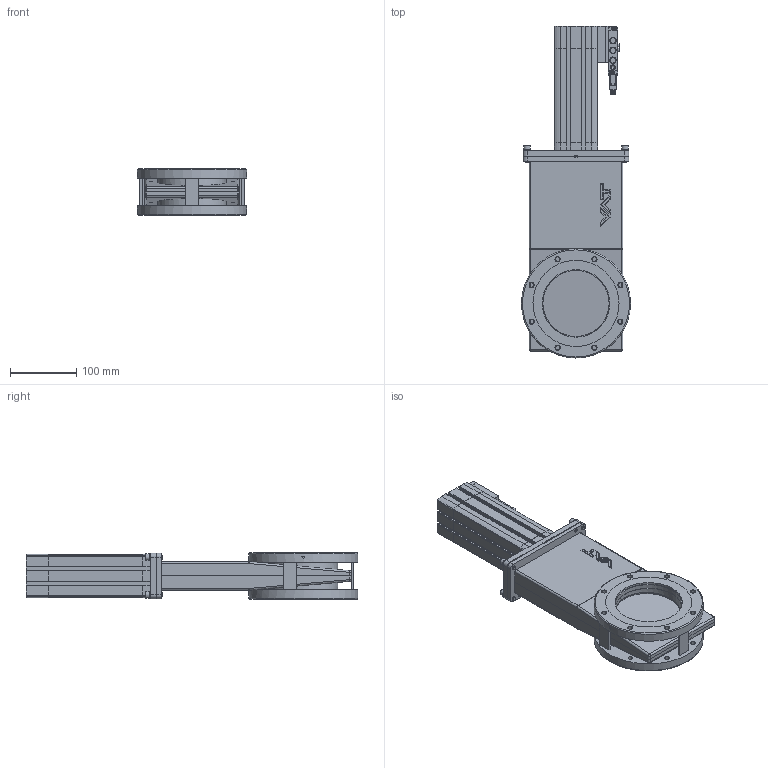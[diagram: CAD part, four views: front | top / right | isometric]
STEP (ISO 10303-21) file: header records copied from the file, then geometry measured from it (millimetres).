
FILE_DESCRIPTION(/* description */ (''),/* implementation_level */ '2;1');
FILE_NAME(/* name */ '1729971424_203.stp',/* time_stamp */ '2021-11-24T14:45:23+01:00',/* author */ (''),/* organization */ (''),/* preprocessor_version */ 'ST-DEVELOPER v16.7',/* originating_system */ 'SIEMENS PLM Software NX 1915',/* authorisation */ '');
FILE_SCHEMA (('AP203_CONFIGURATION_CONTROLLED_3D_DESIGN_OF_MECHANICAL_PARTS_AND_ASSEMBLIES_MIM_LF { 1 0 10303 403 2 1 2}'));
Length unit declared in the file: millimetre
Products named in the file (19): 251261.12_31505ID; 251260.4_31496ID; 251261.12_31472ID; 1134546; 343001.1; 1041281; 938048; 251257.9_31470ID; 251262.4; 251259.6_31493ID; 251259.6_31523ID; 251257.9_31477ID; 218189; n-6134-408; 250214.4; 1004825_NX-ARRAGMNTOpen; 251258.9; 251256.28; 1096124
Assembly tree (27 placements, depth 4):
  1096124
    251256.28
      251257.9_31477ID
      251259.6_31523ID
      251259.6_31493ID
      251262.4  x3
      251258.9
        251261.12_31472ID
        251260.4_31496ID
        251261.12_31505ID
      251257.9_31470ID
    250214.4
    n-6134-408  x4
    218189  x4
    1004825_NX-ARRAGMNTOpen
      938048
      1041281
      343001.1  x2
      1134546
Bounding box: 164.8 x 501.5 x 70 mm (x, y, z)
Volume: 1778122.6 mm3; surface area: 493301.3 mm2
Topology: 41 solids, 43 shells, 4514 faces, 11532 edges, 7109 vertices
Faces by surface type: plane 2028, cylinder 1454, bspline 426, cone 233, torus 193, sphere 127, extrusion 49, revolution 4
Full cylindrical faces by diameter (mm): 1.041 x3, 1.5 x1, 2 x2, 2.46 x2, 2.5 x3, 3 x6, 3.2 x4, 3.4 x2, 3.75 x1, 3.8 x1, 3.9 x1, 4.5 x4, 4.96 x4, 5 x8, 5.05 x1, 5.1 x2, 5.22 x4, 5.5 x4, 5.6 x1, 5.8 x1, 6 x8, 6.2 x3, 6.4 x5, 6.5 x4, 6.54 x1, 6.6 x4, 6.8 x16, 6.9 x1, 7.4 x2, 8 x2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
Entity records: 155272 total; most frequent: CARTESIAN_POINT 50611, ORIENTED_EDGE 21612, DIRECTION 20576, EDGE_CURVE 10806, AXIS2_PLACEMENT_3D 7348, VERTEX_POINT 6858, VECTOR 5876, LINE 5827
